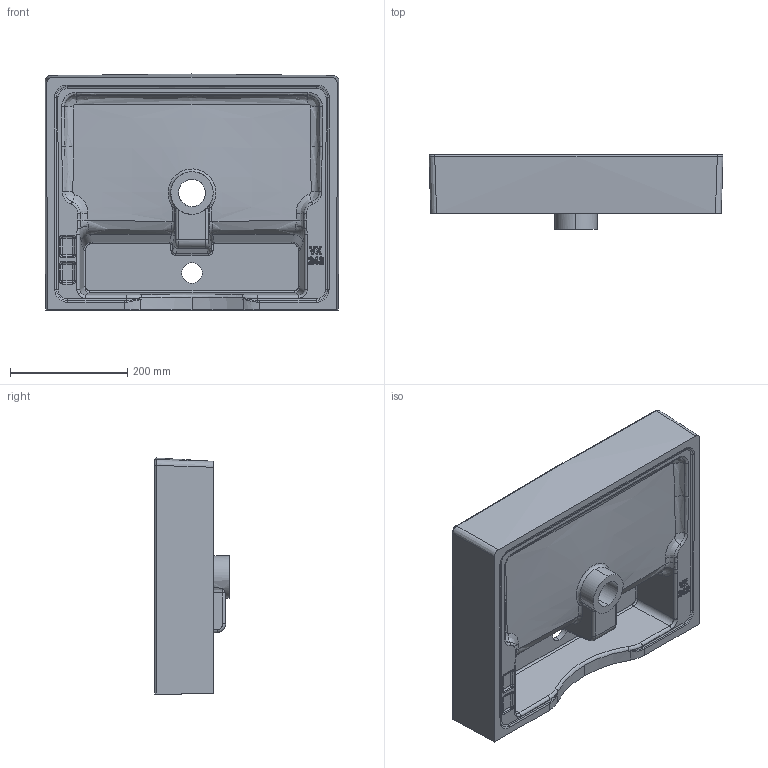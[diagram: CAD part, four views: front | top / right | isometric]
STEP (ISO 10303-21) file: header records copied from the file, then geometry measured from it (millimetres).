
FILE_DESCRIPTION (( 'STEP AP203' ), '1' );
FILE_NAME ('VX242-00CB00E-0000.STEP', '2022-06-21T08:15:33', ( '' ), ( '' ), 'SwSTEP 2.0', 'SolidWorks 2021', '' );
FILE_SCHEMA (( 'CONFIG_CONTROL_DESIGN' ));
Length unit declared in the file: millimetre
Products named in the file (1): VX242-00CB00E-0000
Bounding box: 501.77 x 127 x 402.81 mm (x, y, z)
Volume: 6253832.2 mm3; surface area: 738795.2 mm2
Topology: 2 solids, 2 shells, 565 faces, 1334 edges, 734 vertices
Faces by surface type: cylinder 191, bspline 184, plane 79, torus 62, sphere 49
Entity records: 34215 total; most frequent: CARTESIAN_POINT 22590, ORIENTED_EDGE 2570, DIRECTION 2243, EDGE_CURVE 1285, AXIS2_PLACEMENT_3D 921, VERTEX_POINT 733, EDGE_LOOP 580, ADVANCED_FACE 565
